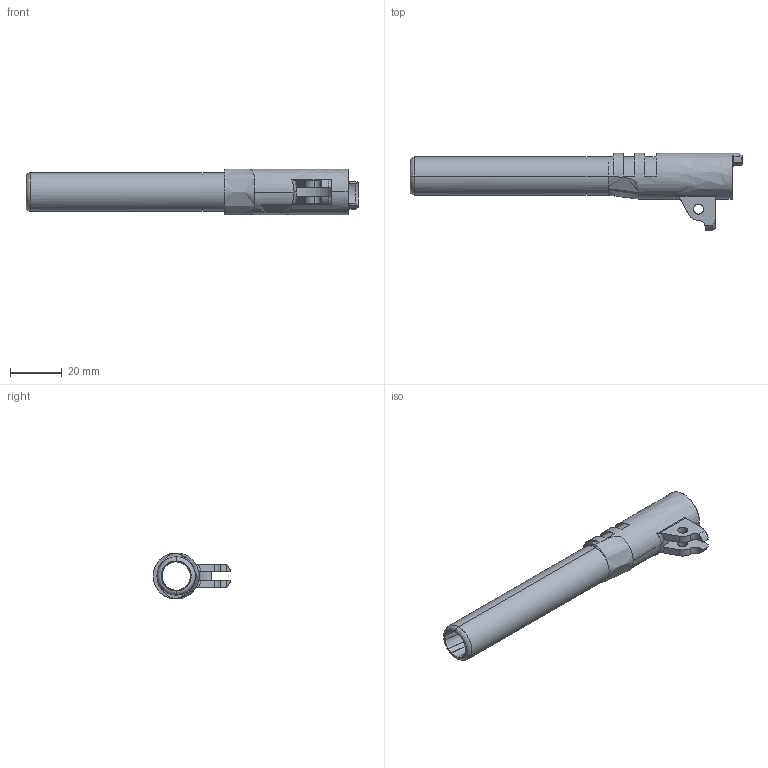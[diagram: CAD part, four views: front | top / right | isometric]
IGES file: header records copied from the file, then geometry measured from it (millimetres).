
Start section: SolidWorks IGES file using analytic representation for surfaces
Global section: file name: C:\Documents and Settings\user\My Documents\CAD\1911\1911 Barrel - TehVice.IGS; native system: SolidWorks 2005 by SolidWorks Corporation; preprocessor: SolidWorks 2005 by SolidWorks Corporation; author: user; date: 090422.182830; units: inch
Bounding box: 127.79 x 29.89 x 17.68 mm (x, y, z)
Surface area: 11673 mm2 (no closed solid volume)
Topology: 0 solids, 0 shells, 107 faces, 1669 edges, 1667 vertices
Faces by surface type: bspline 54, revolution 53
